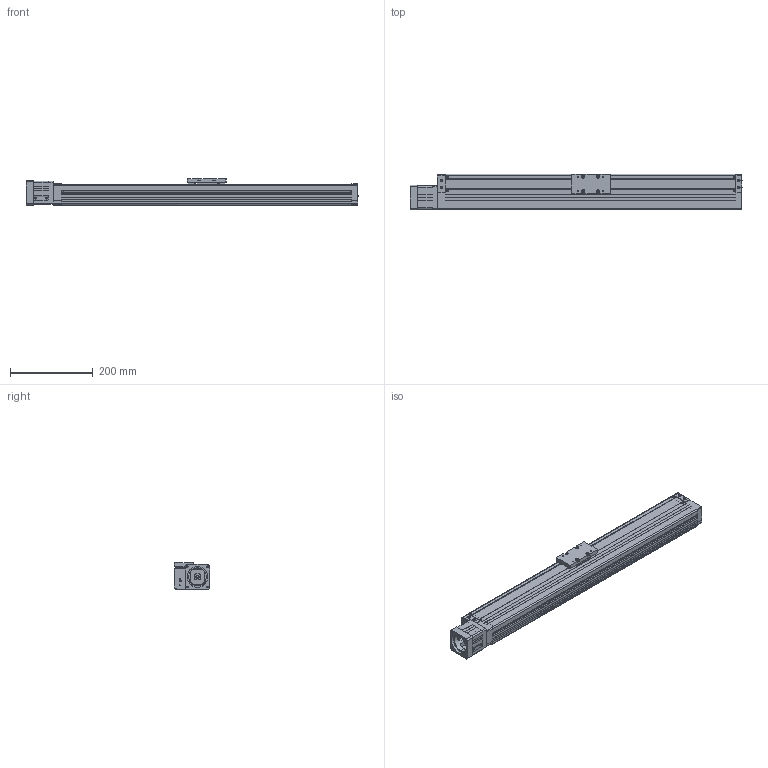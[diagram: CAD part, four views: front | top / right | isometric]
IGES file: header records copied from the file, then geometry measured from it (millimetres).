
Global section: file name: No Iges File Name specified; native system: AutoDesk Inventor R10; preprocessor: AutoDesk Inventor Iges Exporter R10; author: No Author specified; organization: No Organization specified; date: 20110701.175241; units: millimetre
Bounding box: 801 x 86.45 x 65 mm (x, y, z)
Surface area: 500883 mm2 (no closed solid volume)
Topology: 0 solids, 0 shells, 954 faces, 6016 edges, 5992 vertices
Faces by surface type: bspline 954
